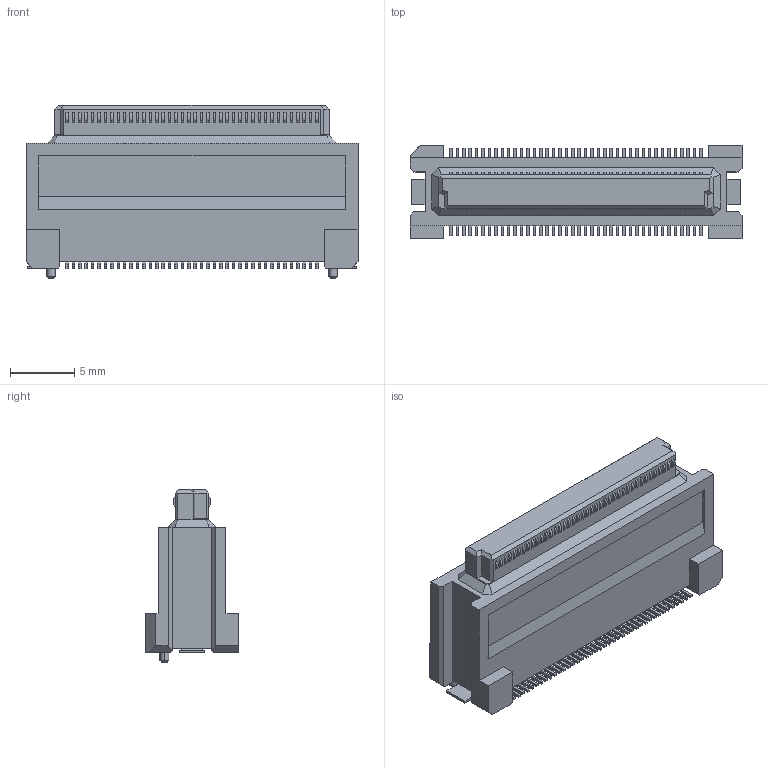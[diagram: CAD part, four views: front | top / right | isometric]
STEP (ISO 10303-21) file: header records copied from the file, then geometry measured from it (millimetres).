
FILE_DESCRIPTION(('Creo Elements/Direct Modeling STEP Export'),'2;1');
FILE_NAME('DY11-080FS-4.stp','2017-11-27T16:38:44',(''),(''),'Creo Elements/Direct Modeling STEP processor for AP214 (Solid Model)','Creo Elements/Direct Modeling 19.0F 14-Feb-2017 (C) Parametric Technology GmbH','');
FILE_SCHEMA(('AUTOMOTIVE_DESIGN { 1 0 10303 214 1 1 1 1 }'));
Length unit declared in the file: millimetre
Products named in the file (2): DY11-080FS-4
Assembly tree (1 placements, depth 2):
  DY11-080FS-4
    DY11-080FS-4
Bounding box: 25.9 x 7.3 x 13.5 mm (x, y, z)
Volume: 1313.6 mm3; surface area: 1229.7 mm2
Topology: 1 solids, 1 shells, 1200 faces, 3293 edges, 2182 vertices
Faces by surface type: plane 858, cylinder 330, bspline 8, cone 4
Entity records: 38323 total; most frequent: CARTESIAN_POINT 7820, ORIENTED_EDGE 6586, DIRECTION 5991, EDGE_CURVE 3293, VECTOR 2605, LINE 2605, VERTEX_POINT 2182, AXIS2_PLACEMENT_3D 1693
